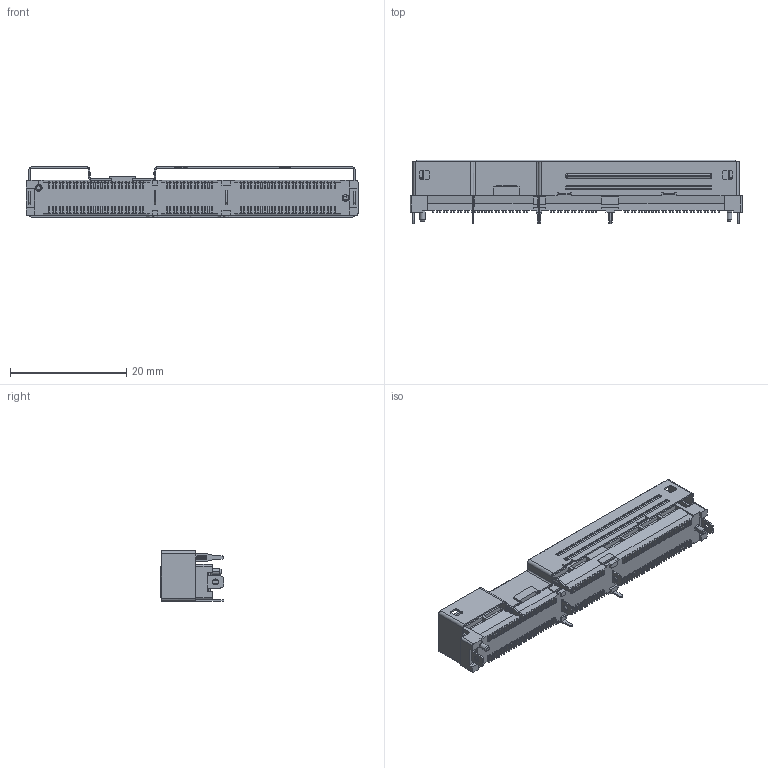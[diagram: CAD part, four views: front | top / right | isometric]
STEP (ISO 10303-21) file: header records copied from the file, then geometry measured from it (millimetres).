
FILE_DESCRIPTION((''),'2;1');
FILE_NAME('PRT0001','2026-07-11T12:48:24',('39001713'),(''),'CREO PARAMETRIC BY PTC INC, 2022244','CREO PARAMETRIC BY PTC INC, 2022244','');
FILE_SCHEMA(('AUTOMOTIVE_DESIGN { 1 0 10303 214 1 1 1 1 }'));
Products named in the file (1): PRT0001
Bounding box: 57.1 x 10.92 x 8.79 mm (x, y, z)
Volume: 2237.8 mm3; surface area: 5704.7 mm2
Topology: 1 solids, 1 shells, 4987 faces, 13239 edges, 8390 vertices
Faces by surface type: plane 3603, cylinder 1105, sphere 208, torus 24, bspline 24, cone 23
Entity records: 178716 total; most frequent: CARTESIAN_POINT 28128, ORIENTED_EDGE 26126, DIRECTION 25461, EDGE_CURVE 13063, VECTOR 10333, LINE 10333, VERTEX_POINT 8390, AXIS2_PLACEMENT_3D 7564
